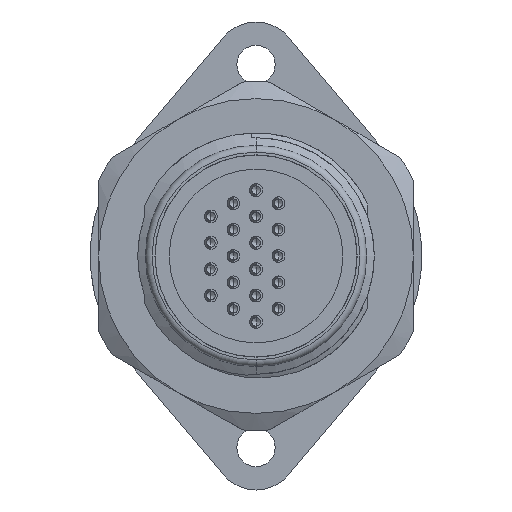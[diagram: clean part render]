
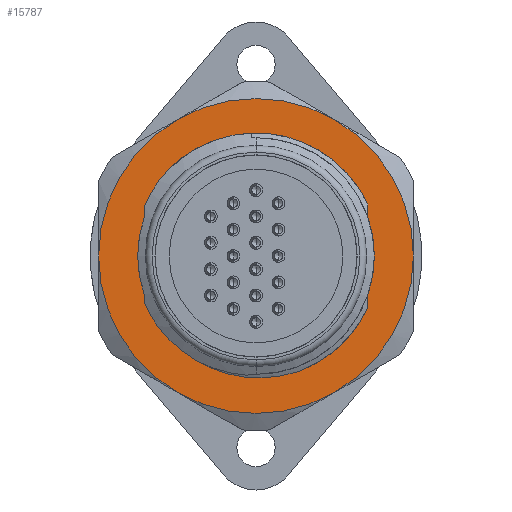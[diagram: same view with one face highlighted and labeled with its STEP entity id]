
A CAD part, left-side view. The second image highlights one B-rep face of the part: STEP entity #15787.
In plain terms, the highlighted planar face has unit normal (-1, 0, 0).
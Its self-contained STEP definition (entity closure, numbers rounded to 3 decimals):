
#4888=CARTESIAN_POINT('',(3.4,11.25,-43.521));
#4945=CARTESIAN_POINT('',(3.4,29.75,-43.521));
#4963=CARTESIAN_POINT('',(3.4,39.,-27.5));
#5019=CARTESIAN_POINT('',(3.4,11.25,-11.479));
#5030=CARTESIAN_POINT('',(3.4,2.,-27.5));
#5054=CARTESIAN_POINT('',(3.4,29.75,-11.479));
#5065=CARTESIAN_POINT('',(3.4,20.5,-27.5));
#5066=DIRECTION('',(-1.,0.,0.));
#5067=DIRECTION('',(0.,-1.,0.));
#5068=AXIS2_PLACEMENT_3D('',#5065,#5066,#5067);
#5070=CARTESIAN_POINT('',(3.4,20.5,-27.5));
#5071=DIRECTION('',(-1.,0.,0.));
#5072=DIRECTION('',(0.,-0.5,-0.866));
#5073=AXIS2_PLACEMENT_3D('',#5070,#5071,#5072);
#5075=CARTESIAN_POINT('',(3.4,20.5,-27.5));
#5076=DIRECTION('',(-1.,0.,0.));
#5077=DIRECTION('',(0.,0.5,-0.866));
#5078=AXIS2_PLACEMENT_3D('',#5075,#5076,#5077);
#5080=CARTESIAN_POINT('',(3.4,20.5,-27.5));
#5081=DIRECTION('',(-1.,0.,0.));
#5082=DIRECTION('',(0.,1.,0.));
#5083=AXIS2_PLACEMENT_3D('',#5080,#5081,#5082);
#5085=CARTESIAN_POINT('',(3.4,20.5,-27.5));
#5086=DIRECTION('',(-1.,0.,0.));
#5087=DIRECTION('',(0.,0.5,0.866));
#5088=AXIS2_PLACEMENT_3D('',#5085,#5086,#5087);
#5090=CARTESIAN_POINT('',(3.4,20.5,-27.5));
#5091=DIRECTION('',(-1.,0.,0.));
#5092=DIRECTION('',(0.,-0.5,0.866));
#5093=AXIS2_PLACEMENT_3D('',#5090,#5091,#5092);
#5119=CARTESIAN_POINT('',(3.4,14.56,-14.933));
#5120=CARTESIAN_POINT('',(3.4,14.032,-15.167));
#5121=CARTESIAN_POINT('',(3.4,13.019,-15.693));
#5122=CARTESIAN_POINT('',(3.4,11.622,-16.652));
#5123=CARTESIAN_POINT('',(3.4,10.368,-17.754));
#5124=CARTESIAN_POINT('',(3.4,9.226,-19.027));
#5125=CARTESIAN_POINT('',(3.4,8.198,-20.505));
#5126=CARTESIAN_POINT('',(3.4,7.611,-21.643));
#5127=CARTESIAN_POINT('',(3.4,7.35,-22.253));
#5148=CARTESIAN_POINT('',(3.4,7.35,-33.455));
#5149=CARTESIAN_POINT('',(3.4,7.389,-33.547));
#5150=CARTESIAN_POINT('',(3.4,7.469,-33.731));
#5151=CARTESIAN_POINT('',(3.4,7.553,-33.913));
#5152=CARTESIAN_POINT('',(3.4,7.597,-34.004));
#5160=CARTESIAN_POINT('',(3.4,20.5,-27.5));
#5161=DIRECTION('',(1.,0.,0.));
#5162=DIRECTION('',(0.,0.946,-0.324));
#5163=AXIS2_PLACEMENT_3D('',#5160,#5161,#5162);
#5223=CARTESIAN_POINT('',(3.4,20.5,-27.5));
#5224=DIRECTION('',(1.,0.,0.));
#5225=DIRECTION('',(0.,-1.,0.));
#5226=AXIS2_PLACEMENT_3D('',#5223,#5224,#5225);
#5316=CARTESIAN_POINT('',(3.4,7.597,-34.004));
#5317=CARTESIAN_POINT('',(3.4,7.905,-34.616));
#5318=CARTESIAN_POINT('',(3.4,8.598,-35.777));
#5319=CARTESIAN_POINT('',(3.4,9.87,-37.357));
#5320=CARTESIAN_POINT('',(3.4,11.309,-38.704));
#5321=CARTESIAN_POINT('',(3.4,12.781,-39.755));
#5322=CARTESIAN_POINT('',(3.4,14.196,-40.532));
#5323=CARTESIAN_POINT('',(3.4,15.104,-40.913));
#5324=CARTESIAN_POINT('',(3.4,15.546,-41.074));
#5336=DIRECTION('',(0.,0.,1.));
#5337=VECTOR('',#5336,1.451);
#5338=CARTESIAN_POINT('',(3.4,7.35,-33.455));
#5339=LINE('',#5338,#5337);
#5340=DIRECTION('',(0.,0.,1.));
#5341=VECTOR('',#5340,0.743);
#5342=CARTESIAN_POINT('',(3.4,7.35,-22.996));
#5343=LINE('',#5342,#5341);
#5367=CARTESIAN_POINT('',(3.4,15.546,-41.074));
#5368=CARTESIAN_POINT('',(3.4,16.214,-41.3));
#5369=CARTESIAN_POINT('',(3.4,17.565,-41.65));
#5370=CARTESIAN_POINT('',(3.4,19.667,-41.876));
#5371=CARTESIAN_POINT('',(3.4,21.743,-41.796));
#5372=CARTESIAN_POINT('',(3.4,23.803,-41.413));
#5373=CARTESIAN_POINT('',(3.4,25.775,-40.738));
#5374=CARTESIAN_POINT('',(3.4,27.641,-39.773));
#5375=CARTESIAN_POINT('',(3.4,29.277,-38.589));
#5376=CARTESIAN_POINT('',(3.4,30.586,-37.338));
#5377=CARTESIAN_POINT('',(3.4,31.625,-36.071));
#5378=CARTESIAN_POINT('',(3.4,32.458,-34.787));
#5379=CARTESIAN_POINT('',(3.4,33.139,-33.447));
#5380=CARTESIAN_POINT('',(3.4,33.498,-32.489));
#5381=CARTESIAN_POINT('',(3.4,33.651,-32.002));
#5415=CARTESIAN_POINT('',(3.4,20.5,-27.5));
#5416=DIRECTION('',(1.,0.,0.));
#5417=DIRECTION('',(0.,-0.946,0.324));
#5418=AXIS2_PLACEMENT_3D('',#5415,#5416,#5417);
#11553=VERTEX_POINT('',#4888);
#11554=VERTEX_POINT('',#4945);
#11555=VERTEX_POINT('',#4963);
#11556=VERTEX_POINT('',#5054);
#11557=VERTEX_POINT('',#5019);
#11558=VERTEX_POINT('',#5030);
#11578=VERTEX_POINT('',#5119);
#11579=VERTEX_POINT('',#5127);
#11580=VERTEX_POINT('',#5148);
#11581=VERTEX_POINT('',#5152);
#11582=VERTEX_POINT('',#5324);
#11583=VERTEX_POINT('',#5381);
#11584=CARTESIAN_POINT('',(3.4,7.35,-32.004));
#11585=VERTEX_POINT('',#11584);
#11586=CARTESIAN_POINT('',(3.4,7.35,-22.996));
#11587=VERTEX_POINT('',#11586);
#11588=CARTESIAN_POINT('',(3.4,6.6,-27.5));
#11589=VERTEX_POINT('',#11588);
#15754=CARTESIAN_POINT('',(3.4,20.5,-27.5));
#15755=DIRECTION('',(-1.,0.,0.));
#15756=DIRECTION('',(0.,1.,0.));
#15757=AXIS2_PLACEMENT_3D('',#15754,#15755,#15756);
#15758=PLANE('',#15757);
#15759=ORIENTED_EDGE('',*,*,#15636,.F.);
#15760=ORIENTED_EDGE('',*,*,#15552,.F.);
#15761=ORIENTED_EDGE('',*,*,#15538,.F.);
#15762=ORIENTED_EDGE('',*,*,#15522,.F.);
#15763=ORIENTED_EDGE('',*,*,#15668,.F.);
#15764=ORIENTED_EDGE('',*,*,#15652,.F.);
#15765=EDGE_LOOP('',(#15759,#15760,#15761,#15762,#15763,#15764));
#15766=FACE_OUTER_BOUND('',#15765,.F.);
#15768=ORIENTED_EDGE('',*,*,#15767,.F.);
#15770=ORIENTED_EDGE('',*,*,#15769,.F.);
#15772=ORIENTED_EDGE('',*,*,#15771,.F.);
#15774=ORIENTED_EDGE('',*,*,#15773,.F.);
#15776=ORIENTED_EDGE('',*,*,#15775,.F.);
#15778=ORIENTED_EDGE('',*,*,#15777,.T.);
#15780=ORIENTED_EDGE('',*,*,#15779,.F.);
#15782=ORIENTED_EDGE('',*,*,#15781,.F.);
#15784=ORIENTED_EDGE('',*,*,#15783,.T.);
#15785=EDGE_LOOP('',(#15768,#15770,#15772,#15774,#15776,#15778,#15780,#15782,
#15784));
#15786=FACE_BOUND('',#15785,.F.);
#5069=CIRCLE('',#5068,18.5);
#5074=CIRCLE('',#5073,18.5);
#5079=CIRCLE('',#5078,18.5);
#5084=CIRCLE('',#5083,18.5);
#5089=CIRCLE('',#5088,18.5);
#5094=CIRCLE('',#5093,18.5);
#5128=B_SPLINE_CURVE_WITH_KNOTS('',3,(#5119,#5120,#5121,#5122,#5123,#5124,#5125,
#5126,#5127),.UNSPECIFIED.,.F.,.F.,(4,1,1,1,1,1,4),(0.,0.167,
0.333,0.5,0.667,0.833,1.),
.UNSPECIFIED.);
#5153=B_SPLINE_CURVE_WITH_KNOTS('',3,(#5148,#5149,#5150,#5151,#5152),
.UNSPECIFIED.,.F.,.F.,(4,1,4),(0.,0.5,1.),.UNSPECIFIED.);
#5164=CIRCLE('',#5163,13.9);
#5227=CIRCLE('',#5226,13.9);
#5325=B_SPLINE_CURVE_WITH_KNOTS('',3,(#5316,#5317,#5318,#5319,#5320,#5321,#5322,
#5323,#5324),.UNSPECIFIED.,.F.,.F.,(4,1,1,1,1,1,4),(0.,0.167,
0.333,0.5,0.667,0.833,1.),
.UNSPECIFIED.);
#5382=B_SPLINE_CURVE_WITH_KNOTS('',3,(#5367,#5368,#5369,#5370,#5371,#5372,#5373,
#5374,#5375,#5376,#5377,#5378,#5379,#5380,#5381),.UNSPECIFIED.,.F.,.F.,(4,1,1,1,
1,1,1,1,1,1,1,1,4),(0.,0.083,0.167,0.25,
0.333,0.417,0.5,0.583,0.667,
0.75,0.833,0.917,1.),.UNSPECIFIED.);
#5419=CIRCLE('',#5418,13.9);
#15522=EDGE_CURVE('',#11555,#11554,#5084,.T.);
#15538=EDGE_CURVE('',#11554,#11553,#5079,.T.);
#15552=EDGE_CURVE('',#11553,#11558,#5074,.T.);
#15636=EDGE_CURVE('',#11558,#11557,#5069,.T.);
#15652=EDGE_CURVE('',#11557,#11556,#5094,.T.);
#15668=EDGE_CURVE('',#11556,#11555,#5089,.T.);
#15767=EDGE_CURVE('',#11578,#11579,#5128,.T.);
#15769=EDGE_CURVE('',#11583,#11578,#5164,.T.);
#15771=EDGE_CURVE('',#11582,#11583,#5382,.T.);
#15773=EDGE_CURVE('',#11581,#11582,#5325,.T.);
#15775=EDGE_CURVE('',#11580,#11581,#5153,.T.);
#15777=EDGE_CURVE('',#11580,#11585,#5339,.T.);
#15779=EDGE_CURVE('',#11589,#11585,#5227,.T.);
#15781=EDGE_CURVE('',#11587,#11589,#5419,.T.);
#15783=EDGE_CURVE('',#11587,#11579,#5343,.T.);
#15787=ADVANCED_FACE('',(#15766,#15786),#15758,.T.);
